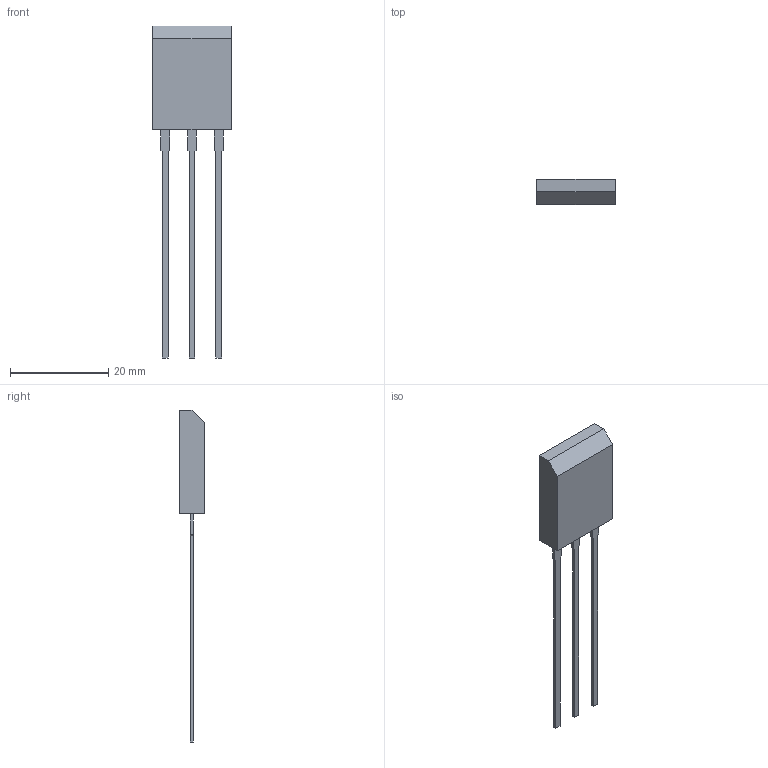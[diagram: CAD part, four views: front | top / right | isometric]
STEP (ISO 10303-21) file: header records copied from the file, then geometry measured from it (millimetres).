
FILE_DESCRIPTION(('FreeCAD Model'),'2;1');
FILE_NAME('/var/www/3D/0T/19852077.1.1.stp','2024-08-09T09:25:33',( 'Author'),(''),'Open CASCADE STEP processor 6.9','FreeCAD','Unknown' );
FILE_SCHEMA(('AUTOMOTIVE_DESIGN { 1 0 10303 214 1 1 1 1 }'));
Length unit declared in the file: millimetre
Products named in the file (3): ASSEMBLY; Body; PinsArray
Assembly tree (2 placements, depth 2):
  ASSEMBLY
    Body
    PinsArray
Bounding box: 15.91 x 5.21 x 67.47 mm (x, y, z)
Volume: 1803 mm3; surface area: 1552.8 mm2
Topology: 4 solids, 4 shells, 37 faces, 87 edges, 58 vertices
Faces by surface type: plane 37
Entity records: 2252 total; most frequent: CARTESIAN_POINT 359, DIRECTION 341, LINE 261, VECTOR 261, ORIENTED_EDGE 174, PCURVE 174, DEFINITIONAL_REPRESENTATION 174, EDGE_CURVE 87
